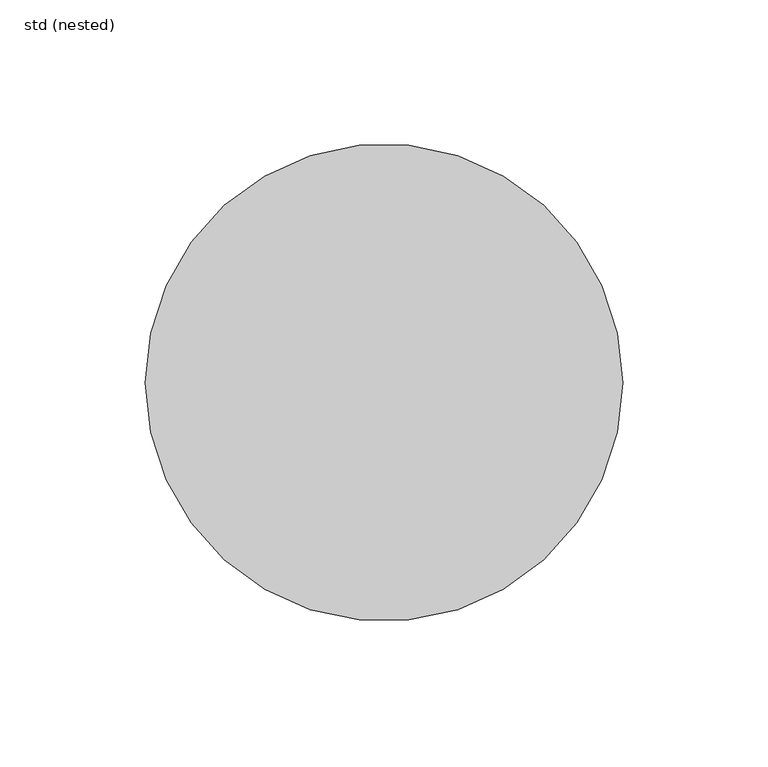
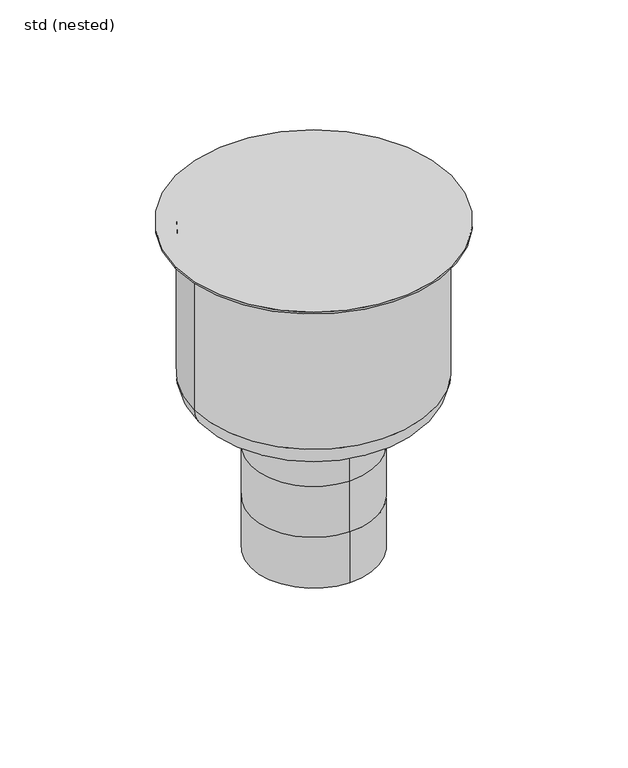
"""IFC4 building model written with IfcOpenShell, lengths in millimetres: sanitary terminal geometry, ZZZ_do not use_PF_ST_UN_telescopic hygienic gully_ACO : std (nested)."""

from ifc_helpers import new_model, si_unit, point, frame, origin, origin_with_axes, place, context, project, spatial, circle_curve, ellipse_curve, trimmed, source, transform, mapped, element, save
from ifc_brep_helpers import plane_surface, cylinder_surface, revolved_surface, advanced_brep


def std_nested_b8717db3(model_context):
    return source(origin(), model_context, "Body", "AdvancedBrep", [
        advanced_brep(
        [(0.0, -37.5, -205.0), (0.0, 37.5, -205.0), (0.0, -37.5, -173.0), (0.0, 37.5, -173.0), (0.0, -37.5, -141.0), (0.0, 37.5, -141.0), (0.0, 37.5, -109.0), (37.5, 0.0, -109.0), (0.0, -37.5, -109.0), (-37.5, 0.0, -109.0), (71.0, 0.0, -94.0), (-71.0, 0.0, -94.0), (-71.0, 0.0, -1.25), (71.0, 0.0, -1.25), (56.0, 0.0, -109.0), (-56.0, 0.0, -109.0), (-82.0, 0.0, -1.25), (82.0, 0.0, -1.25), (-82.0, 0.0, 0.0), (82.0, 0.0, 0.0)],
        [
            (0, 1, circle_curve(frame((0.0, 0.0, -205.0), z_axis=(0.0, 0.0, -1.0), x_axis=(0.0, 1.0, 0.0)), 37.5)),
            (1, 0, circle_curve(frame((0.0, 0.0, -205.0), z_axis=(0.0, 0.0, -1.0), x_axis=(0.0, 1.0, 0.0)), 37.5)),
            (0, 2),
            (2, 3, circle_curve(frame((0.0, 0.0, -173.0), z_axis=(0.0, 0.0, -1.0), x_axis=(0.0, 1.0, 0.0)), 37.5)),
            (3, 1),
            (3, 2, circle_curve(frame((0.0, 0.0, -173.0), z_axis=(0.0, 0.0, -1.0), x_axis=(0.0, 1.0, 0.0)), 37.5)),
            (4, 2),
            (3, 5),
            (5, 4, circle_curve(frame((0.0, 0.0, -141.0), z_axis=(0.0, 0.0, -1.0), x_axis=(1.0, 0.0, 0.0)), 37.5)),
            (4, 5, circle_curve(frame((0.0, 0.0, -141.0), z_axis=(0.0, 0.0, -1.0), x_axis=(-1.0, 0.0, 0.0)), 37.5)),
            (5, 6),
            (6, 7, circle_curve(frame((0.0, 0.0, -109.0), z_axis=(0.0, 0.0, -1.0), x_axis=(0.0, 1.0, 0.0)), 37.5)),
            (7, 8, circle_curve(frame((0.0, 0.0, -109.0), z_axis=(0.0, 0.0, -1.0), x_axis=(0.0, 1.0, 0.0)), 37.5)),
            (8, 4),
            (8, 9, circle_curve(frame((0.0, 0.0, -109.0), z_axis=(0.0, 0.0, -1.0), x_axis=(0.0, 1.0, 0.0)), 37.5)),
            (9, 6, circle_curve(frame((0.0, 0.0, -109.0), z_axis=(0.0, 0.0, -1.0), x_axis=(0.0, 1.0, 0.0)), 37.5)),
            (10, 11, circle_curve(frame((0.0, 0.0, -94.0), z_axis=(0.0, 0.0, 1.0), x_axis=(-1.0, 0.0, 0.0)), 71.0)),
            (11, 12),
            (12, 13, circle_curve(frame((0.0, 0.0, -1.25), z_axis=(0.0, 0.0, -1.0), x_axis=(-1.0, 0.0, 0.0)), 71.0)),
            (13, 10),
            (11, 10, circle_curve(frame((0.0, 0.0, -94.0), z_axis=(0.0, 0.0, 1.0), x_axis=(-1.0, 0.0, 0.0)), 71.0)),
            (13, 12, circle_curve(frame((0.0, 0.0, -1.25), z_axis=(0.0, 0.0, -1.0), x_axis=(-1.0, 0.0, 0.0)), 71.0)),
            (10, 14, circle_curve(frame((56.0, 0.0, -94.0), z_axis=(0.0, 1.0, 0.0), x_axis=(-1.0, 0.0, 0.0)), 15.0)),
            (14, 15, circle_curve(frame((0.0, 0.0, -109.0), z_axis=(0.0, 0.0, 1.0), x_axis=(-1.0, 0.0, 0.0)), 56.0)),
            (15, 11, circle_curve(frame((-56.0, 0.0, -94.0), z_axis=(0.0, 1.0, 0.0), x_axis=(1.0, 0.0, 0.0)), 15.0)),
            (15, 14, circle_curve(frame((0.0, 0.0, -109.0), z_axis=(0.0, 0.0, 1.0), x_axis=(-1.0, 0.0, 0.0)), 56.0)),
            (14, 7),
            (9, 15),
            (16, 17, circle_curve(frame((0.0, 0.0, -1.25), z_axis=(0.0, 0.0, -1.0), x_axis=(1.0, 0.0, 0.0)), 82.0)),
            (17, 16, circle_curve(frame((0.0, 0.0, -1.25), z_axis=(0.0, 0.0, -1.0), x_axis=(1.0, 0.0, 0.0)), 82.0)),
            (18, 19, circle_curve(origin_with_axes(), 82.0)),
            (19, 18, circle_curve(origin_with_axes(), 82.0)),
            (17, 19),
            (18, 16),
        ],
        [
            plane_surface(frame((0.0, 37.5, -205.0), z_axis=(0.0, 0.0, -1.0), x_axis=(1.0, 0.0, 0.0))),
            cylinder_surface(frame((0.0, 0.0, -173.0), z_axis=(0.0, 0.0, -1.0), x_axis=(0.0, 1.0, 0.0)), 37.5),
            cylinder_surface(frame((0.0, 0.0, -141.0), z_axis=(0.0, 0.0, -1.0), x_axis=(1.0, 0.0, 0.0)), 37.5),
            cylinder_surface(frame((0.0, 0.0, -141.0), z_axis=(0.0, 0.0, -1.0), x_axis=(-1.0, 0.0, 0.0)), 37.5),
            cylinder_surface(frame((0.0, 0.0, -109.0), z_axis=(0.0, 0.0, -1.0), x_axis=(0.0, 1.0, 0.0)), 37.5),
            cylinder_surface(frame((0.0, 0.0, 60.0), z_axis=(0.0, 0.0, -1.0), x_axis=(-1.0, 0.0, 0.0)), 71.0),
            revolved_surface(trimmed(ellipse_curve(frame((-56.0, 0.0, -94.0), z_axis=(0.0, -1.0, 0.0), x_axis=(1.0, 0.0, 0.0)), 15.0, 15.0), [point((-71.0, 0.0, -94.0))], [point((-56.0, 0.0, -109.0))], True, "CARTESIAN"), (0.0, 0.0, 60.0), (0.0, 0.0, -1.0)),
            plane_surface(frame((0.0, 0.0, -109.0), z_axis=(0.0, 0.0, -1.0), x_axis=(-1.0, 0.0, 0.0))),
            plane_surface(frame((82.0, 0.0, -1.25), z_axis=(0.0, 0.0, -1.0), x_axis=(0.0, -1.0, 0.0))),
            plane_surface(frame((82.0, 0.0, 0.0), z_axis=(0.0, 0.0, 1.0), x_axis=(0.0, 1.0, 0.0))),
            cylinder_surface(frame((0.0, 0.0, -1.25), z_axis=(0.0, 0.0, 1.0), x_axis=(1.0, 0.0, 0.0)), 82.0),
        ],
        [
            (0, [[1, 2]]),
            (1, [[-1, 3, 4, 5]]),
            (1, [[-2, -5, 6, -3]]),
            (2, [[7, -6, 8, 9]]),
            (3, [[-7, 10, -8, -4]]),
            (4, [[11, 12, 13, 14, -9]]),
            (4, [[-11, -10, -14, 15, 16]]),
            (5, [[17, 18, 19, 20]]),
            (5, [[-18, 21, -20, 22]]),
            (6, [[-17, 23, 24, 25]]),
            (6, [[-21, -25, 26, -23]]),
            (7, [[-24, 27, -12, -16, 28]]),
            (7, [[-26, -28, -15, -13, -27]]),
            (8, [[29, 30], [-19, -22]]),
            (9, [[31, 32]]),
            (10, [[-30, 33, -31, 34]]),
            (10, [[-29, -34, -32, -33]]),
        ],
    ),
    ])


if __name__ == "__main__":
    model = new_model("IFC4")
    model_context = context("Model", 3, world=origin())
    ifc_project = project(units=[si_unit("LENGTHUNIT", "METRE", prefix="MILLI")], contexts=[model_context])
    site = spatial("IfcSite", under=ifc_project)
    building = spatial("IfcBuilding", under=site)
    placement = place(None, origin())
    std_nested_shape = std_nested_b8717db3(model_context)
    element("IfcSanitaryTerminal", 1, ObjectType="ZZZ_do not use_PF_ST_UN_telescopic hygienic gully_ACO : std (nested)", at=placement, inside=building, context=model_context, shape_type="MappedRepresentation", body=[
        mapped(std_nested_shape, transform((0.0, 0.0, 0.0), x_axis=(1.0, 0.0, 0.0), y_axis=(0.0, 1.0, 0.0), z_axis=(0.0, 0.0, 1.0))),
    ])
    save(model, "model.ifc")
